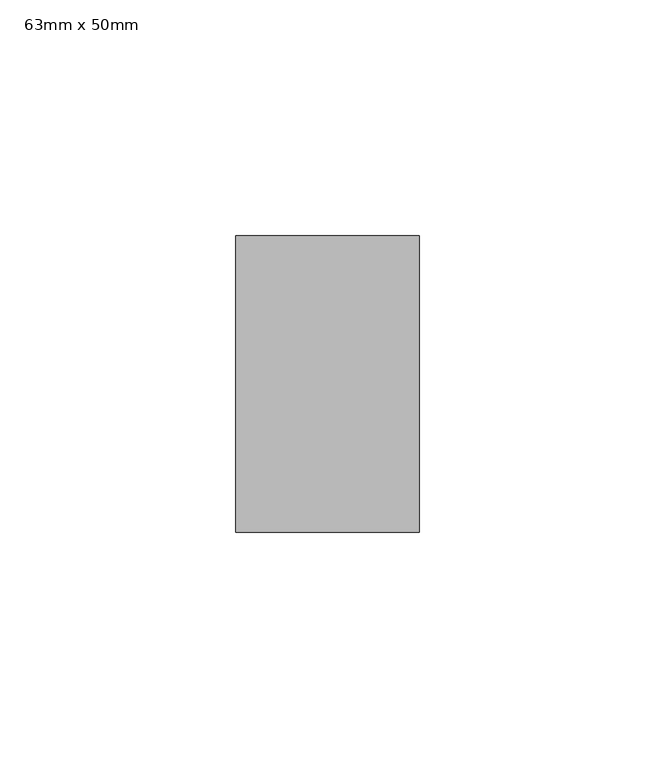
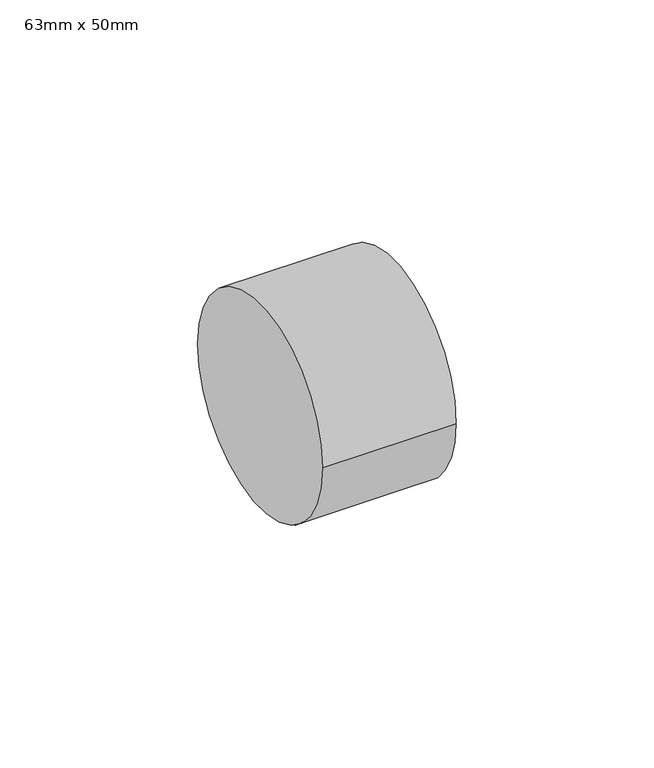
"""IFC4 building model written with IfcOpenShell, lengths in millimetres: pipe fitting geometry, PipeFitting_HTA_CPVC_ReducingBushesShortPattern : 63mm x 50mm."""

from ifc_helpers import new_model, si_unit, point, frame, origin, origin_2d, place, context, project, spatial, circle_curve, trimmed, segment, composite_curve, outline, extrude, source, transform, mapped, element, save


def pipe_fitting_63mm_x_50mm_d220d819(model_context):
    return source(origin(), model_context, "Body", "SweptSolid", [
        extrude(outline(composite_curve([segment(trimmed(circle_curve(origin_2d(), 31.5), [point((-31.5, 0.0))], [point((31.5, 0.0))], False, "CARTESIAN"), True, "CONTINUOUS"), segment(trimmed(circle_curve(origin_2d(), 31.5), [point((31.5, 0.0))], [point((-31.5, 0.0))], False, "CARTESIAN"), True, "CONTINUOUS")], self_intersect=False)), frame((-19.5, 0.0, 0.0), z_axis=(1.0, 0.0, 0.0), x_axis=(0.0, 1.0, 0.0)), (0.0, 0.0, 1.0), 39.0),
    ])


if __name__ == "__main__":
    model = new_model("IFC4")
    model_context = context("Model", 3, world=origin())
    ifc_project = project(units=[si_unit("LENGTHUNIT", "METRE", prefix="MILLI")], contexts=[model_context])
    site = spatial("IfcSite", under=ifc_project)
    building = spatial("IfcBuilding", under=site)
    placement = place(None, origin())
    pipe_fitting_63mm_x_50mm_shape = pipe_fitting_63mm_x_50mm_d220d819(model_context)
    element("IfcPipeFitting", 1, ObjectType="PipeFitting_HTA_CPVC_ReducingBushesShortPattern : 63mm x 50mm", at=placement, inside=building, context=model_context, shape_type="MappedRepresentation", body=[
        mapped(pipe_fitting_63mm_x_50mm_shape, transform((0.0, 0.0, 0.0), x_axis=(1.0, 0.0, 0.0), y_axis=(0.0, 1.0, 0.0), z_axis=(0.0, 0.0, 1.0))),
    ])
    save(model, "model.ifc")
